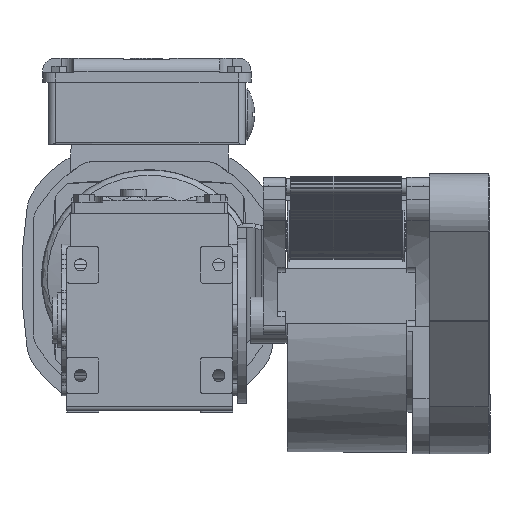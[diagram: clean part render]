
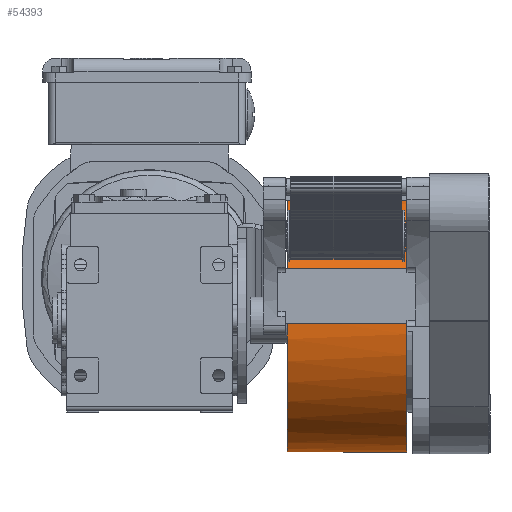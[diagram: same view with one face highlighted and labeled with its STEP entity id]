
A CAD part, left-side view. The second image highlights one B-rep face of the part: STEP entity #54393.
In plain terms, the highlighted cylindrical face has radius 71.5 mm (diameter 143 mm), a partial arc.
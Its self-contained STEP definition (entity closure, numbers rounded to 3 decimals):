
#2320=CYLINDRICAL_SURFACE('',#59243,71.5);
#6498=LINE('',#95445,#10825);
#6499=LINE('',#95446,#10826);
#10825=VECTOR('',#72875,10.);
#10826=VECTOR('',#72876,10.);
#13818=FACE_OUTER_BOUND('',#16800,.T.);
#16800=EDGE_LOOP('',(#46559,#46560,#46561,#46562,#46563));
#17938=CIRCLE('',#56244,71.5);
#19269=CIRCLE('',#59051,71.5);
#19349=CIRCLE('',#59233,71.5);
#21105=VERTEX_POINT('',#81250);
#21106=VERTEX_POINT('',#81252);
#24207=VERTEX_POINT('',#94836);
#24364=VERTEX_POINT('',#95409);
#24365=VERTEX_POINT('',#95411);
#26924=EDGE_CURVE('',#21105,#21106,#17938,.T.);
#31635=EDGE_CURVE('',#21106,#24207,#19269,.T.);
#31872=EDGE_CURVE('',#24365,#24364,#19349,.T.);
#31889=EDGE_CURVE('',#24207,#24364,#6498,.T.);
#31890=EDGE_CURVE('',#21105,#24365,#6499,.T.);
#46559=ORIENTED_EDGE('',*,*,#31872,.T.);
#46560=ORIENTED_EDGE('',*,*,#31889,.F.);
#46561=ORIENTED_EDGE('',*,*,#31635,.F.);
#46562=ORIENTED_EDGE('',*,*,#26924,.F.);
#46563=ORIENTED_EDGE('',*,*,#31890,.T.);
#54393=ADVANCED_FACE('',(#13818),#2320,.T.);
#56244=AXIS2_PLACEMENT_3D('',#81253,#64024,#64025);
#59051=AXIS2_PLACEMENT_3D('',#94837,#72364,#72365);
#59233=AXIS2_PLACEMENT_3D('',#95412,#72846,#72847);
#59243=AXIS2_PLACEMENT_3D('',#95444,#72873,#72874);
#64024=DIRECTION('center_axis',(0.,-1.,0.));
#64025=DIRECTION('ref_axis',(-0.467,0.,0.884));
#72364=DIRECTION('center_axis',(0.,-1.,0.));
#72365=DIRECTION('ref_axis',(-0.467,0.,0.884));
#72846=DIRECTION('center_axis',(0.,-1.,0.));
#72847=DIRECTION('ref_axis',(-0.467,0.,0.884));
#72873=DIRECTION('center_axis',(0.,1.,0.));
#72874=DIRECTION('ref_axis',(-0.467,0.,0.884));
#72875=DIRECTION('',(0.,1.,0.));
#72876=DIRECTION('',(0.,1.,0.));
#81250=CARTESIAN_POINT('',(65.759,-32.5,28.589));
#81252=CARTESIAN_POINT('',(5.112,-32.5,-38.1));
#81253=CARTESIAN_POINT('Origin',(76.5,-32.5,-42.1));
#94836=CARTESIAN_POINT('',(109.924,-32.5,-105.307));
#94837=CARTESIAN_POINT('Origin',(76.5,-32.5,-42.1));
#95409=CARTESIAN_POINT('',(109.924,32.5,-105.307));
#95411=CARTESIAN_POINT('',(65.759,32.5,28.589));
#95412=CARTESIAN_POINT('Origin',(76.5,32.5,-42.1));
#95444=CARTESIAN_POINT('Origin',(76.5,-32.5,-42.1));
#95445=CARTESIAN_POINT('',(109.924,-32.5,-105.307));
#95446=CARTESIAN_POINT('',(65.759,-32.5,28.589));
